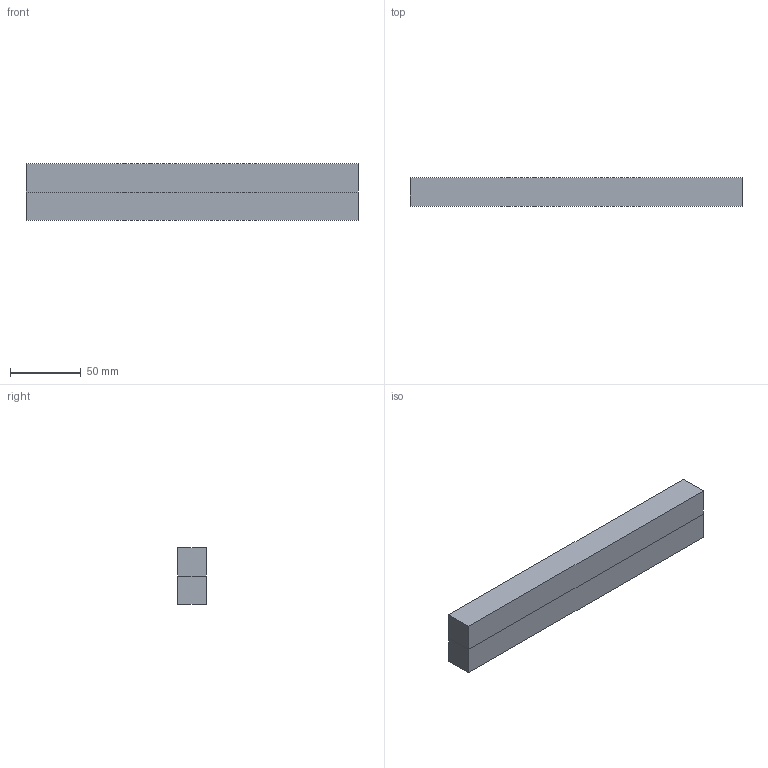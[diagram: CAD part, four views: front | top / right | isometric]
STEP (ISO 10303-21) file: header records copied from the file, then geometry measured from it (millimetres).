
FILE_DESCRIPTION(('Open CASCADE Model'),'2;1');
FILE_NAME('Open CASCADE Shape Model','2025-02-21T15:43:40',('Author'),( 'Open CASCADE'),'Open CASCADE STEP processor 7.8','Open CASCADE 7.8' ,'Unknown');
FILE_SCHEMA(('AUTOMOTIVE_DESIGN { 1 0 10303 214 1 1 1 1 }'));
Length unit declared in the file: millimetre
Products named in the file (2): Compound1; Solid1
Assembly tree (2 placements, depth 2):
  Compound1
    Solid1  x2
Bounding box: 234 x 20 x 40 mm (x, y, z)
Volume: 187200 mm3; surface area: 39040 mm2
Topology: 2 solids, 2 shells, 12 faces, 24 edges, 16 vertices
Faces by surface type: plane 12
Entity records: 192 total; most frequent: DIRECTION 30, CARTESIAN_POINT 29, ORIENTED_EDGE 24, EDGE_CURVE 12, LINE 12, VECTOR 12, AXIS2_PLACEMENT_3D 9, VERTEX_POINT 8
